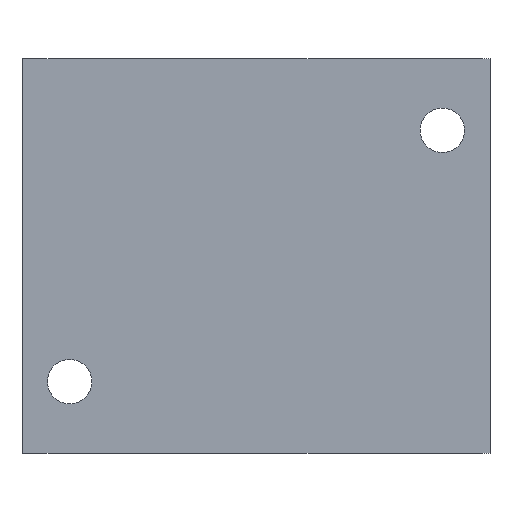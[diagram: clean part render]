
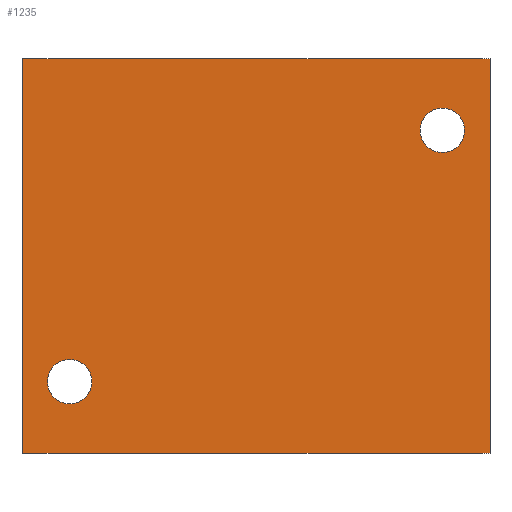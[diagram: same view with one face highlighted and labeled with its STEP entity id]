
A CAD part, front view. The second image highlights one B-rep face of the part: STEP entity #1235.
In plain terms, the highlighted planar face has unit normal (0, -1, 0).
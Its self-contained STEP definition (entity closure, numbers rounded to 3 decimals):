
#9 = DIRECTION ( 'NONE',  ( 0., -1., 0. ) ) ;
#27 = CARTESIAN_POINT ( 'NONE',  ( -43., -38.5, -34.15 ) ) ;
#31 = EDGE_CURVE ( 'NONE', #2018, #381, #181, .T. ) ;
#62 = FACE_BOUND ( 'NONE', #1764, .T. ) ;
#88 = DIRECTION ( 'NONE',  ( 0., -1., 0. ) ) ;
#130 = EDGE_CURVE ( 'NONE', #381, #2018, #1286, .T. ) ;
#168 = VERTEX_POINT ( 'NONE', #1398 ) ;
#181 = CIRCLE ( 'NONE', #1720, 5.15 ) ;
#214 = VERTEX_POINT ( 'NONE', #450 ) ;
#232 = ORIENTED_EDGE ( 'NONE', *, *, #1429, .F. ) ;
#262 = DIRECTION ( 'NONE',  ( 1., 0., 0. ) ) ;
#311 = CARTESIAN_POINT ( 'NONE',  ( 43., -38.5, 29. ) ) ;
#324 = AXIS2_PLACEMENT_3D ( 'NONE', #311, #1562, #786 ) ;
#355 = EDGE_CURVE ( 'NONE', #681, #847, #1905, .T. ) ;
#356 = CIRCLE ( 'NONE', #324, 5.15 ) ;
#381 = VERTEX_POINT ( 'NONE', #27 ) ;
#394 = DIRECTION ( 'NONE',  ( 0., 0., 1. ) ) ;
#450 = CARTESIAN_POINT ( 'NONE',  ( -54., -38.5, 45.5 ) ) ;
#475 = CARTESIAN_POINT ( 'NONE',  ( 54., -38.5, -45.5 ) ) ;
#537 = VERTEX_POINT ( 'NONE', #475 ) ;
#546 = ORIENTED_EDGE ( 'NONE', *, *, #355, .F. ) ;
#564 = ORIENTED_EDGE ( 'NONE', *, *, #1489, .T. ) ;
#587 = LINE ( 'NONE', #1204, #1469 ) ;
#609 = CARTESIAN_POINT ( 'NONE',  ( -54., -38.5, -45.5 ) ) ;
#681 = VERTEX_POINT ( 'NONE', #972 ) ;
#752 = DIRECTION ( 'NONE',  ( 0., 0., -1. ) ) ;
#786 = DIRECTION ( 'NONE',  ( 0., 0., -1. ) ) ;
#840 = CARTESIAN_POINT ( 'NONE',  ( -43., -38.5, -23.85 ) ) ;
#847 = VERTEX_POINT ( 'NONE', #1645 ) ;
#857 = EDGE_CURVE ( 'NONE', #214, #168, #906, .T. ) ;
#890 = VERTEX_POINT ( 'NONE', #609 ) ;
#906 = LINE ( 'NONE', #1322, #1281 ) ;
#972 = CARTESIAN_POINT ( 'NONE',  ( 43., -38.5, 23.85 ) ) ;
#983 = ORIENTED_EDGE ( 'NONE', *, *, #1502, .F. ) ;
#1029 = DIRECTION ( 'NONE',  ( 0., 1., 0. ) ) ;
#1070 = DIRECTION ( 'NONE',  ( 0., 0., -1. ) ) ;
#1118 = AXIS2_PLACEMENT_3D ( 'NONE', #1535, #1973, #1226 ) ;
#1204 = CARTESIAN_POINT ( 'NONE',  ( 54., -38.5, 45.5 ) ) ;
#1226 = DIRECTION ( 'NONE',  ( 0., 0., -1. ) ) ;
#1235 = ADVANCED_FACE ( 'NONE', ( #62, #1964, #1306 ), #1799, .F. ) ;
#1275 = ORIENTED_EDGE ( 'NONE', *, *, #1367, .T. ) ;
#1281 = VECTOR ( 'NONE', #1359, 1000. ) ;
#1286 = CIRCLE ( 'NONE', #1118, 5.15 ) ;
#1306 = FACE_OUTER_BOUND ( 'NONE', #1311, .T. ) ;
#1311 = EDGE_LOOP ( 'NONE', ( #1275, #983, #1534, #564 ) ) ;
#1322 = CARTESIAN_POINT ( 'NONE',  ( -54., -38.5, 45.5 ) ) ;
#1338 = LINE ( 'NONE', #1518, #1835 ) ;
#1359 = DIRECTION ( 'NONE',  ( 1., 0., 0. ) ) ;
#1367 = EDGE_CURVE ( 'NONE', #890, #537, #1882, .T. ) ;
#1398 = CARTESIAN_POINT ( 'NONE',  ( 54., -38.5, 45.5 ) ) ;
#1427 = DIRECTION ( 'NONE',  ( 0., 0., -1. ) ) ;
#1429 = EDGE_CURVE ( 'NONE', #847, #681, #356, .T. ) ;
#1469 = VECTOR ( 'NONE', #1698, 1000. ) ;
#1489 = EDGE_CURVE ( 'NONE', #214, #890, #1338, .T. ) ;
#1495 = CARTESIAN_POINT ( 'NONE',  ( -43., -38.5, -29. ) ) ;
#1502 = EDGE_CURVE ( 'NONE', #168, #537, #587, .T. ) ;
#1518 = CARTESIAN_POINT ( 'NONE',  ( -54., -38.5, 45.5 ) ) ;
#1534 = ORIENTED_EDGE ( 'NONE', *, *, #857, .F. ) ;
#1535 = CARTESIAN_POINT ( 'NONE',  ( -43., -38.5, -29. ) ) ;
#1536 = VECTOR ( 'NONE', #262, 1000. ) ;
#1562 = DIRECTION ( 'NONE',  ( 0., -1., 0. ) ) ;
#1597 = CARTESIAN_POINT ( 'NONE',  ( 43., -38.5, 29. ) ) ;
#1645 = CARTESIAN_POINT ( 'NONE',  ( 43., -38.5, 34.15 ) ) ;
#1688 = AXIS2_PLACEMENT_3D ( 'NONE', #1931, #1029, #394 ) ;
#1698 = DIRECTION ( 'NONE',  ( 0., 0., -1. ) ) ;
#1709 = ORIENTED_EDGE ( 'NONE', *, *, #31, .F. ) ;
#1718 = ORIENTED_EDGE ( 'NONE', *, *, #130, .F. ) ;
#1720 = AXIS2_PLACEMENT_3D ( 'NONE', #1495, #88, #752 ) ;
#1764 = EDGE_LOOP ( 'NONE', ( #546, #232 ) ) ;
#1799 = PLANE ( 'NONE',  #1688 ) ;
#1834 = CARTESIAN_POINT ( 'NONE',  ( -54., -38.5, -45.5 ) ) ;
#1835 = VECTOR ( 'NONE', #1070, 1000. ) ;
#1882 = LINE ( 'NONE', #1834, #1536 ) ;
#1905 = CIRCLE ( 'NONE', #1934, 5.15 ) ;
#1931 = CARTESIAN_POINT ( 'NONE',  ( -54., -38.5, 45.5 ) ) ;
#1934 = AXIS2_PLACEMENT_3D ( 'NONE', #1597, #9, #1427 ) ;
#1964 = FACE_BOUND ( 'NONE', #1972, .T. ) ;
#1972 = EDGE_LOOP ( 'NONE', ( #1718, #1709 ) ) ;
#1973 = DIRECTION ( 'NONE',  ( 0., -1., 0. ) ) ;
#2018 = VERTEX_POINT ( 'NONE', #840 ) ;
